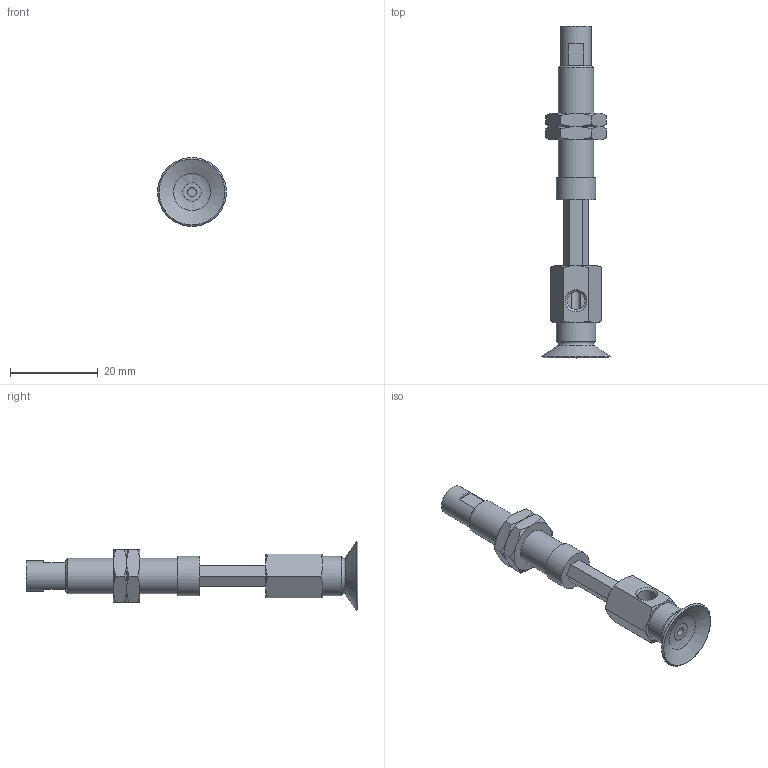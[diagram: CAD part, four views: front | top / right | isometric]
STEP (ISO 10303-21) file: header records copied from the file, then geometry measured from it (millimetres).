
FILE_DESCRIPTION(('STEP AP203'),'1');
FILE_NAME('.stp','2025-04-10T07:35:15',(' '),(' '),'Spatial InterOp 3D',' ',' ');
FILE_SCHEMA(('CONFIG_CONTROL_DESIGN'));
Length unit declared in the file: millimetre
Products named in the file (6): BNABPFYH-15A-15-※; CONNECTOR-H-15A-15; Nut-15A-15-h; NAPFTH-15A-15-MBODY; NAPFTH-15A-15-FBODY; BPFG-15A-※
Assembly tree (6 placements, depth 2):
  BNABPFYH-15A-15-※
    CONNECTOR-H-15A-15
    Nut-15A-15-h  x2
    NAPFTH-15A-15-MBODY
    NAPFTH-15A-15-FBODY
    BPFG-15A-※
Bounding box: 15.7 x 75.5 x 15.7 mm (x, y, z)
Volume: 4049.7 mm3; surface area: 5038.3 mm2
Topology: 6 solids, 6 shells, 139 faces, 300 edges, 182 vertices
Faces by surface type: plane 63, cone 51, cylinder 15, torus 9, bspline 1
Full cylindrical faces by diameter (mm): 2 x2, 4 x2, 4.134 x2, 5 x1, 6 x2, 7 x1, 7.188 x2, 8 x1, 9 x2
Entity records: 3467 total; most frequent: CARTESIAN_POINT 854, DIRECTION 478, ORIENTED_EDGE 418, EDGE_CURVE 209, AXIS2_PLACEMENT_3D 201, EDGE_LOOP 170, VERTEX_POINT 147, FACE_OUTER_BOUND 140
